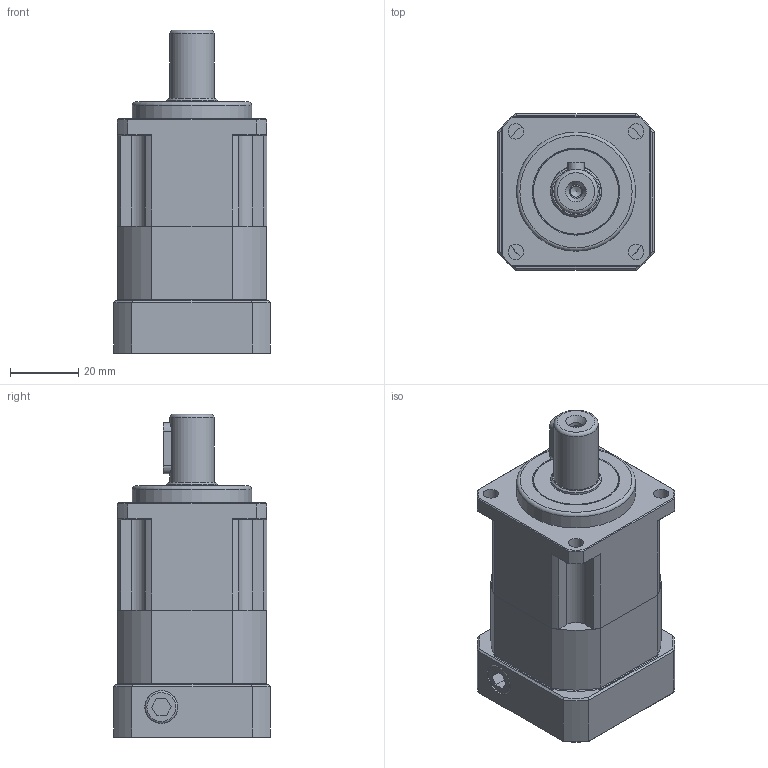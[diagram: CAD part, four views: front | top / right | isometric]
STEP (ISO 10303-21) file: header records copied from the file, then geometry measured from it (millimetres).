
FILE_DESCRIPTION((''),'2;1');
FILE_NAME('D:\WORK\감속기 도면\조립도(서보규격별)\KSB_PGX-H\KSB-44 (PGX44-H)\KSB-44-1(30-45-M3-S8).stp','2019-04-25T13:44:07',('Young'),(''),'Autodesk Inventor 2012','Autodesk Inventor 2012','');
FILE_SCHEMA(('AUTOMOTIVE_DESIGN { 1 0 10303 214 1 1 1 1 }'));
Length unit declared in the file: millimetre
Products named in the file (1): KSB-44-1(30-45-M3-S8)
Bounding box: 46 x 46 x 95 mm (x, y, z)
Volume: 109460.6 mm3; surface area: 41381.9 mm2
Topology: 16 solids, 16 shells, 453 faces, 1076 edges, 689 vertices
Faces by surface type: plane 237, cylinder 120, cone 73, torus 14, bspline 9
Full cylindrical faces by diameter (mm): 2.459 x4, 2.5 x4, 3.242 x1, 3.3 x9, 4 x6, 4.2 x4, 4.5 x9, 6 x4, 7 x5, 7.5 x4, 8.2 x1, 9.5 x2, 13 x1, 14.2 x1, 14.8 x2, 15 x3, 25 x4, 28 x1, 30 x2, 31.5 x1, 32 x2, 35 x1
Entity records: 13047 total; most frequent: CARTESIAN_POINT 3123, DIRECTION 2045, ORIENTED_EDGE 1842, EDGE_CURVE 921, AXIS2_PLACEMENT_3D 793, VERTEX_POINT 652, EDGE_LOOP 645, VECTOR 459
